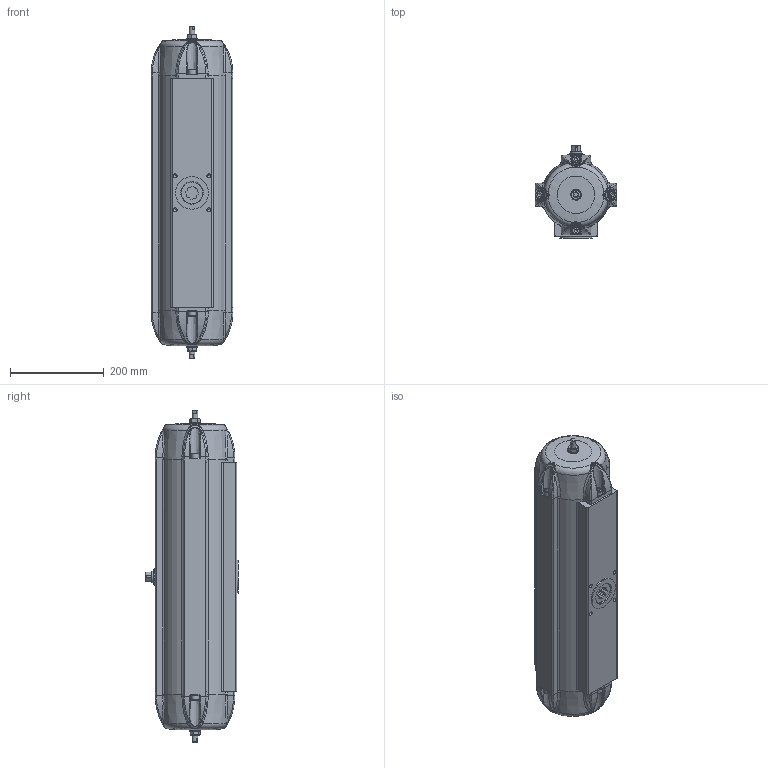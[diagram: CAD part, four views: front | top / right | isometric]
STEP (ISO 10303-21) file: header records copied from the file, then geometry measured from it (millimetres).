
FILE_DESCRIPTION((''),'2;1');
FILE_NAME('C:\Users\war\Desktop\SAF_30-180°_BR03.stp','2018-07-18T07:40:53',('war'),(''),'Autodesk Inventor 2013','Autodesk Inventor 2013','');
FILE_SCHEMA(('AUTOMOTIVE_DESIGN { 1 0 10303 214 1 1 1 1 }'));
Length unit declared in the file: millimetre
Products named in the file (1): ENG-061265_Shrinkwrap_1
Bounding box: 174 x 197 x 708.77 mm (x, y, z)
Volume: 5365914.2 mm3; surface area: 1004182.2 mm2
Topology: 1 solids, 19 shells, 2376 faces, 5942 edges, 3617 vertices
Faces by surface type: bspline 716, cylinder 572, plane 543, torus 346, cone 191, sphere 8
Full cylindrical faces by diameter (mm): 2 x2, 4.134 x8, 4.917 x3, 5 x2, 8.376 x12, 10 x8, 10.5 x8, 11.445 x2, 12 x4, 16 x8, 20 x1, 20.8 x1, 21 x1, 23 x2, 23.5 x1, 24.8 x3, 25 x5, 25.1 x1, 25.3 x4, 26 x1, 28 x2, 30 x6, 30.4 x2, 32 x1, 35 x1, 36 x1, 41.9 x1, 43 x1, 46.8 x3, 47 x1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
Entity records: 92497 total; most frequent: CARTESIAN_POINT 40214, ORIENTED_EDGE 11112, DIRECTION 8924, EDGE_CURVE 5556, AXIS2_PLACEMENT_3D 3842, VERTEX_POINT 3504, EDGE_LOOP 2704, STYLED_ITEM 2377
